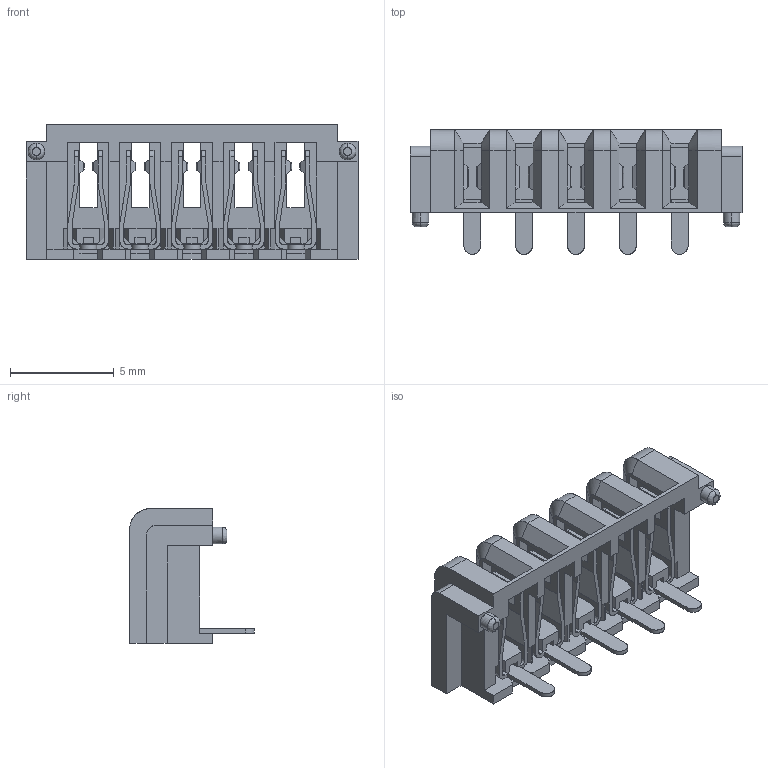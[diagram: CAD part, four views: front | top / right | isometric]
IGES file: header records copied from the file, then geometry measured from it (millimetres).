
Start section: SolidWorks IGES file using analytic representation for surfaces
Global section: file name: C:\Users\hsuan\Desktop\°õ¦æ§@·~\RFQ³æ\2026¦~\6¤ë\RB126060091\TSB0-04151-00XXA[3D].IGS; native system: SolidWorks 2022; preprocessor: SolidWorks 2022; author: hsuan; date: 260618.164122; units: millimetre
Bounding box: 16 x 6 x 6.5 mm (x, y, z)
Surface area: 869.4 mm2 (no closed solid volume)
Topology: 0 solids, 0 shells, 788 faces, 5318 edges, 5318 vertices
Faces by surface type: bspline 788
